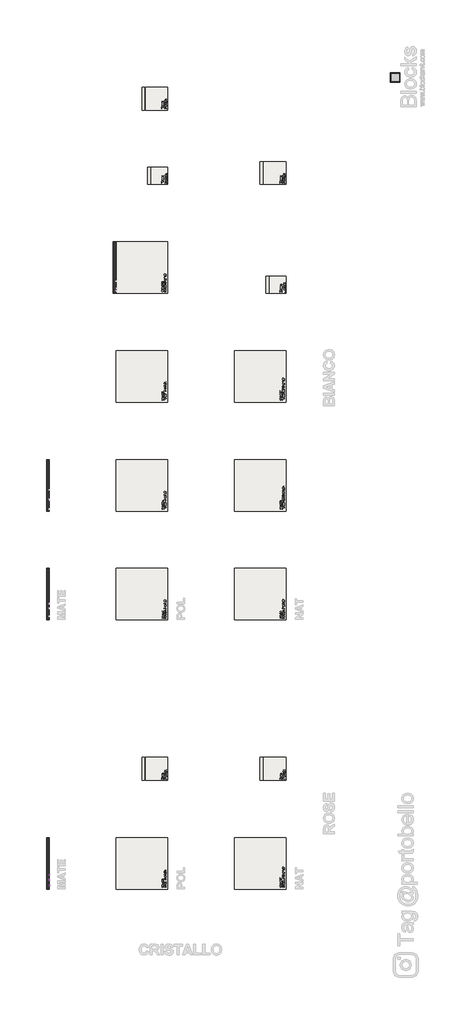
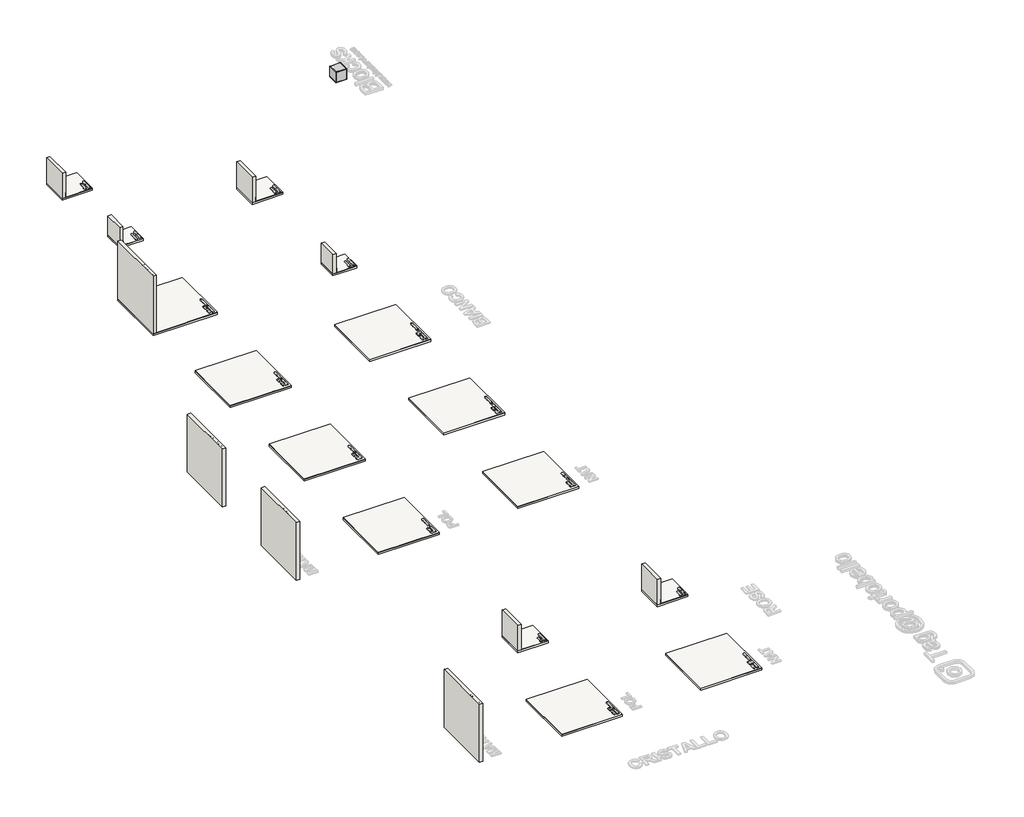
# One storey, part 1 of 14: 30 slabs, 10 walls, 3 proxies, 1 furniture element.
"""IFC4 building model written with IfcOpenShell, lengths in millimetres."""

from ifc_helpers import new_model, si_unit, frame, origin, origin_with_axes, place, context, project, spatial, polyline, outline, extrude, faceted_brep, transform, mapped, element, save
from components import branco_22256ad2

model = new_model("IFC4")

# Units and contexts
model_context = context("Model", 3, world=origin())
ifc_project = project(units=[si_unit("LENGTHUNIT", "METRE", prefix="MILLI")], contexts=[model_context])

# Site, building, storey
site = spatial("IfcSite", under=ifc_project)
building = spatial("IfcBuilding", under=site)
storey = spatial("IfcBuildingStorey", under=building, Name="PORTOBELLO - SHOWROOM", Elevation=0.0)

# Proxies
placement = place(None, origin())
element("IfcBuildingElementProxy", 1, Name="10mm Arial", ObjectType="10mm Arial", at=placement, inside=storey, context=model_context, shape_type="SweptSolid", body=[
    extrude(outline(polyline([(-8574.985348, 2518.4745677), (-8574.985348, 2618.9308778), (-8531.6978999, 2618.9308778), (-8511.5992803, 2616.2208138), (-8500.6118714, 2606.6313564), (-8496.5038557, 2591.43783), (-8498.20531, 2581.5418044), (-8503.3096727, 2573.3380359), (-8511.970228, 2567.3231653), (-8524.34026, 2563.9938332), (-8517.2033493, 2558.6227561), (-8507.0252808, 2545.6978353), (-8490.2743873, 2518.4745677), (-8504.8670398, 2518.4745677), (-8517.9391133, 2539.2966886), (-8527.3814179, 2553.0800007), (-8534.0155565, 2559.591512), (-8539.9875076, 2561.982745), (-8547.2715711, 2562.4242034), (-8562.4283093, 2562.4242034), (-8562.4283093, 2518.4745677), (-8574.985348, 2518.4745677)]), holes=[polyline([(-8562.4283093, 2574.9812421), (-8534.3221248, 2574.9812421), (-8519.9869898, 2576.7593384), (-8511.8445349, 2582.4492466), (-8509.0608945, 2590.9718462), (-8514.370658, 2602.0328315), (-8531.1583397, 2606.373839), (-8562.4283093, 2606.373839), (-8562.4283093, 2574.9812421)])]), frame((-16677.6869751, 0.0, 0.0), z_axis=(1.0, 0.0, 0.0), x_axis=(0.0, 1.0, 0.0)), (0.0, 0.0, 1.0), 20.0),
    extrude(outline(polyline([(-8479.2379274, 2555.360869), (-8476.521732, 2573.1479635), (-8468.3731458, 2585.64982), (-8458.3054419, 2591.7750552), (-8446.2511752, 2593.8168003), (-8433.05954, 2591.3305311), (-8422.5227865, 2583.8717237), (-8415.6158021, 2572.0289891), (-8413.3134739, 2556.3909386), (-8417.3847013, 2534.0482388), (-8429.2427643, 2521.4053609), (-8446.2511752, 2516.9049378), (-8459.6022259, 2519.3820099), (-8470.1267167, 2526.8132262), (-8476.9601247, 2538.9042811), (-8479.2379274, 2555.360869)]), holes=[polyline([(-8466.6808887, 2555.3853945), (-8465.2277548, 2544.0209065), (-8460.8683531, 2535.924437), (-8454.3077909, 2531.0775917), (-8446.2511752, 2529.4619766), (-8438.2313477, 2531.0867887), (-8431.6830482, 2535.9612252), (-8427.3236466, 2544.1649937), (-8425.8705127, 2555.777802), (-8427.3328436, 2566.8111961), (-8431.7198364, 2574.7973011), (-8438.277333, 2579.6441464), (-8446.2511752, 2581.2597615), (-8454.3077909, 2579.6502778), (-8460.8683531, 2574.8218266), (-8465.2277548, 2566.7437511), (-8466.6808887, 2555.3853945)])]), frame((-16677.6869751, 0.0, 0.0), z_axis=(1.0, 0.0, 0.0), x_axis=(0.0, 1.0, 0.0)), (0.0, 0.0, 1.0), 20.0),
    extrude(outline(polyline([(-8403.8956948, 2540.4493855), (-8391.3386561, 2542.0190154), (-8385.5261205, 2532.6993381), (-8372.2087923, 2529.4619766), (-8359.4064989, 2532.429558), (-8355.2371696, 2539.3947905), (-8359.4310243, 2545.0356477), (-8372.3559451, 2548.6163658), (-8391.2650797, 2554.7599951), (-8399.5178991, 2561.933694), (-8402.326065, 2572.0627116), (-8400.0697221, 2581.419177), (-8393.91383, 2588.5683505), (-8385.9307907, 2592.2839586), (-8375.1273228, 2593.8168003), (-8359.8479573, 2591.3519909), (-8350.1358726, 2584.6810641), (-8345.8193905, 2573.4116123), (-8358.3764293, 2571.8419824), (-8363.0975816, 2578.7704267), (-8374.1463041, 2581.2597615), (-8386.1637827, 2578.8807913), (-8389.7690262, 2573.3380359), (-8388.2729728, 2569.6837414), (-8383.5886087, 2566.9123637), (-8372.772878, 2564.2390879), (-8354.3419901, 2558.3284505), (-8345.7826023, 2551.6329982), (-8342.6801308, 2540.7191656), (-8346.3221626, 2528.7016871), (-8356.8313249, 2519.9828838), (-8372.3804706, 2516.9049378), (-8385.0417426, 2518.3887285), (-8394.281712, 2522.8401007), (-8400.4498668, 2530.2100033), (-8403.8956948, 2540.4493855)])), frame((-16677.6869751, 0.0, 0.0), z_axis=(1.0, 0.0, 0.0), x_axis=(0.0, 1.0, 0.0)), (0.0, 0.0, 1.0), 20.0),
    extrude(outline(polyline([(-8276.9028301, 2540.4493855), (-8264.591046, 2538.8797557), (-8269.0270897, 2529.602998), (-8276.1057524, 2522.6684224), (-8285.6676186, 2518.345809), (-8297.5532728, 2516.9049378), (-8312.2869467, 2519.391207), (-8323.6238435, 2526.8500144), (-8330.8527247, 2538.7969822), (-8333.2623518, 2554.7477324), (-8330.8281992, 2571.2349771), (-8323.5257416, 2583.5651553), (-8312.342129, 2591.253889), (-8298.2645113, 2593.8168003), (-8284.6252863, 2591.2600204), (-8273.7267822, 2583.5896808), (-8266.5806744, 2571.2840281), (-8264.1986385, 2554.8213088), (-8264.2722149, 2551.4367944), (-8320.705313, 2551.4367944), (-8318.5317435, 2542.0374095), (-8313.4825631, 2535.1273593), (-8306.195434, 2530.8783223), (-8297.3080181, 2529.4619766), (-8284.996234, 2532.0862015), (-8276.9028301, 2540.4493855)]), holes=[polyline([(-8320.705313, 2563.9938332), (-8276.7556773, 2563.9938332), (-8281.7833979, 2575.3736496), (-8289.1042496, 2579.7882335), (-8298.3135622, 2581.2597615), (-8313.7768687, 2576.5631347), (-8318.6421081, 2571.0724959), (-8320.705313, 2563.9938332)])]), frame((-16677.6869751, 0.0, 0.0), z_axis=(1.0, 0.0, 0.0), x_axis=(0.0, 1.0, 0.0)), (0.0, 0.0, 1.0), 20.0),
    extrude(outline(polyline([(-8210.8312238, 2518.4745677), (-8210.8312238, 2618.9308778), (-8189.2978643, 2618.9308778), (-8168.6964726, 2548.1258565), (-8164.5271433, 2533.3370003), (-8160.038983, 2549.3521298), (-8139.8299987, 2618.9308778), (-8118.2230628, 2618.9308778), (-8118.2230628, 2518.4745677), (-8130.7801016, 2518.4745677), (-8130.7801016, 2606.373839), (-8156.0168065, 2518.4745677), (-8173.0129547, 2518.4745677), (-8198.274185, 2606.373839), (-8198.274185, 2518.4745677), (-8210.8312238, 2518.4745677)])), frame((-16677.6869751, 0.0, 0.0), z_axis=(1.0, 0.0, 0.0), x_axis=(0.0, 1.0, 0.0)), (0.0, 0.0, 1.0), 20.0),
    extrude(outline(polyline([(-16657.6869751, -8085.2608361), (-16657.6869751, -8097.8178748), (-16677.6869751, -8097.8178748), (-16677.6869751, -8085.2608361), (-16657.6869751, -8085.2608361)])), frame((0.0, 0.0, 2606.373839), z_axis=(0.0, 0.0, 1.0), x_axis=(1.0, 0.0, 0.0)), (0.0, 0.0, 1.0), 12.5570388),
    extrude(outline(polyline([(-16657.6869751, -8085.2608361), (-16657.6869751, -8097.8178748), (-16677.6869751, -8097.8178748), (-16677.6869751, -8085.2608361), (-16657.6869751, -8085.2608361)])), frame((0.0, 0.0, 2518.4745677), z_axis=(0.0, 0.0, 1.0), x_axis=(1.0, 0.0, 0.0)), (0.0, 0.0, 1.0), 73.7726028),
    extrude(outline(polyline([(-8074.2734271, 2518.4745677), (-8047.442567, 2555.5815982), (-8072.7037973, 2592.2471704), (-8057.645161, 2592.2471704), (-8045.4560042, 2574.5643092), (-8039.7415705, 2566.2501761), (-8034.7874263, 2573.0682557), (-8020.9060124, 2592.2471704), (-8005.7983251, 2592.2471704), (-8032.3348797, 2555.5570728), (-8006.7793438, 2518.4745677), (-8021.8625056, 2518.4745677), (-8037.2644984, 2540.792742), (-8040.0604016, 2544.8884949), (-8059.1657399, 2518.4745677), (-8074.2734271, 2518.4745677)])), frame((-16677.6869751, 0.0, 0.0), z_axis=(1.0, 0.0, 0.0), x_axis=(0.0, 1.0, 0.0)), (0.0, 0.0, 1.0), 20.0),
])
element("IfcBuildingElementProxy", 2, Name="10mm Arial", ObjectType="10mm Arial", at=placement, inside=storey, context=model_context, shape_type="SweptSolid", body=[
    extrude(outline(polyline([(-8532.6053422, 2393.4745677), (-8545.162381, 2393.4745677), (-8545.162381, 2471.7598562), (-8557.0572321, 2463.2863076), (-8570.2764585, 2456.9464746), (-8570.2764585, 2468.8168003), (-8551.870096, 2480.5644987), (-8540.6987461, 2493.9308778), (-8532.6053422, 2493.9308778), (-8532.6053422, 2393.4745677)])), frame((-16677.6869751, 0.0, 0.0), z_axis=(1.0, 0.0, 0.0), x_axis=(0.0, 1.0, 0.0)), (0.0, 0.0, 1.0), 20.0),
    extrude(outline(polyline([(-8461.9719991, 2393.4745677), (-8461.9719991, 2417.0190154), (-8507.4912647, 2417.0190154), (-8507.4912647, 2429.5760541), (-8458.8327394, 2492.361248), (-8449.4149604, 2492.361248), (-8449.4149604, 2429.5760541), (-8436.8579216, 2429.5760541), (-8436.8579216, 2417.0190154), (-8449.4149604, 2417.0190154), (-8449.4149604, 2393.4745677), (-8461.9719991, 2393.4745677)]), holes=[polyline([(-8461.9719991, 2429.5760541), (-8461.9719991, 2468.3753419), (-8492.0402209, 2429.5760541), (-8461.9719991, 2429.5760541)])]), frame((-16677.6869751, 0.0, 0.0), z_axis=(1.0, 0.0, 0.0), x_axis=(0.0, 1.0, 0.0)), (0.0, 0.0, 1.0), 20.0),
    extrude(outline(polyline([(-8419.5919933, 2393.4745677), (-8419.5919933, 2406.0316064), (-8407.0349545, 2406.0316064), (-8407.0349545, 2393.4745677), (-8409.2912974, 2380.635486), (-8416.4527336, 2373.0693797), (-8419.5919933, 2377.7782692), (-8414.9812056, 2383.1983973), (-8413.3379994, 2393.4745677), (-8419.5919933, 2393.4745677)])), frame((-16677.6869751, 0.0, 0.0), z_axis=(1.0, 0.0, 0.0), x_axis=(0.0, 1.0, 0.0)), (0.0, 0.0, 1.0), 20.0),
    extrude(outline(polyline([(-8386.6297665, 2420.158275), (-8374.0727277, 2421.7279049), (-8367.7451574, 2408.7907214), (-8354.6240329, 2404.4619766), (-8345.6231868, 2405.9672271), (-8338.8786835, 2410.4829786), (-8334.6664347, 2417.4880649), (-8333.2623518, 2426.4613199), (-8338.5230643, 2441.3728034), (-8345.1296118, 2445.4746877), (-8354.4278292, 2446.8419824), (-8365.4520263, 2444.6592159), (-8372.5030979, 2438.9938332), (-8385.0601367, 2440.563463), (-8374.0727277, 2492.361248), (-8325.4142025, 2492.361248), (-8325.4142025, 2479.8042092), (-8363.9191847, 2479.8042092), (-8369.3147873, 2452.1394832), (-8360.344598, 2457.5841367), (-8350.945213, 2459.3990212), (-8339.2097773, 2457.1488097), (-8329.4609045, 2450.3981751), (-8322.8942109, 2440.1097419), (-8320.705313, 2427.2461348), (-8322.6734817, 2414.6890961), (-8328.5779877, 2403.9469418), (-8339.8842277, 2394.9154388), (-8354.6730839, 2391.9049378), (-8367.0063278, 2393.839384), (-8376.8318427, 2399.6427224), (-8383.5671489, 2408.6405029), (-8386.6297665, 2420.158275)])), frame((-16677.6869751, 0.0, 0.0), z_axis=(1.0, 0.0, 0.0), x_axis=(0.0, 1.0, 0.0)), (0.0, 0.0, 1.0), 20.0),
    extrude(outline(polyline([(-8314.4267936, 2393.4745677), (-8287.5959334, 2430.5815982), (-8312.8571638, 2467.2471704), (-8297.7985274, 2467.2471704), (-8285.6093706, 2449.5643092), (-8279.894937, 2441.2501761), (-8274.9407928, 2448.0682557), (-8261.0593788, 2467.2471704), (-8245.9516916, 2467.2471704), (-8272.4882461, 2430.5570728), (-8246.9327102, 2393.4745677), (-8262.015872, 2393.4745677), (-8277.4178649, 2415.792742), (-8280.213768, 2419.8884949), (-8299.3191063, 2393.4745677), (-8314.4267936, 2393.4745677)])), frame((-16677.6869751, 0.0, 0.0), z_axis=(1.0, 0.0, 0.0), x_axis=(0.0, 1.0, 0.0)), (0.0, 0.0, 1.0), 20.0),
    extrude(outline(polyline([(-8191.9956656, 2393.4745677), (-8204.5527044, 2393.4745677), (-8204.5527044, 2471.7598562), (-8216.4475555, 2463.2863076), (-8229.6667819, 2456.9464746), (-8229.6667819, 2468.8168003), (-8211.2604194, 2480.5644987), (-8200.0890695, 2493.9308778), (-8191.9956656, 2493.9308778), (-8191.9956656, 2393.4745677)])), frame((-16677.6869751, 0.0, 0.0), z_axis=(1.0, 0.0, 0.0), x_axis=(0.0, 1.0, 0.0)), (0.0, 0.0, 1.0), 20.0),
    extrude(outline(polyline([(-8121.3623225, 2393.4745677), (-8121.3623225, 2417.0190154), (-8166.8815881, 2417.0190154), (-8166.8815881, 2429.5760541), (-8118.2230628, 2492.361248), (-8108.8052838, 2492.361248), (-8108.8052838, 2429.5760541), (-8096.248245, 2429.5760541), (-8096.248245, 2417.0190154), (-8108.8052838, 2417.0190154), (-8108.8052838, 2393.4745677), (-8121.3623225, 2393.4745677)]), holes=[polyline([(-8121.3623225, 2429.5760541), (-8121.3623225, 2468.3753419), (-8151.4305443, 2429.5760541), (-8121.3623225, 2429.5760541)])]), frame((-16677.6869751, 0.0, 0.0), z_axis=(1.0, 0.0, 0.0), x_axis=(0.0, 1.0, 0.0)), (0.0, 0.0, 1.0), 20.0),
    extrude(outline(polyline([(-8078.9823167, 2393.4745677), (-8078.9823167, 2406.0316064), (-8066.4252779, 2406.0316064), (-8066.4252779, 2393.4745677), (-8068.6816208, 2380.635486), (-8075.843057, 2373.0693797), (-8078.9823167, 2377.7782692), (-8074.371529, 2383.1983973), (-8072.7283228, 2393.4745677), (-8078.9823167, 2393.4745677)])), frame((-16677.6869751, 0.0, 0.0), z_axis=(1.0, 0.0, 0.0), x_axis=(0.0, 1.0, 0.0)), (0.0, 0.0, 1.0), 20.0),
    extrude(outline(polyline([(-8046.0200899, 2420.158275), (-8033.4630511, 2421.7279049), (-8027.1354808, 2408.7907214), (-8014.0143563, 2404.4619766), (-8005.0135102, 2405.9672271), (-7998.2690069, 2410.4829786), (-7994.0567581, 2417.4880649), (-7992.6526751, 2426.4613199), (-7997.9133877, 2441.3728034), (-8004.5199352, 2445.4746877), (-8013.8181526, 2446.8419824), (-8024.8423497, 2444.6592159), (-8031.8934213, 2438.9938332), (-8044.4504601, 2440.563463), (-8033.4630511, 2492.361248), (-7984.8045259, 2492.361248), (-7984.8045259, 2479.8042092), (-8023.3095081, 2479.8042092), (-8028.7051107, 2452.1394832), (-8019.7349214, 2457.5841367), (-8010.3355364, 2459.3990212), (-7998.6001007, 2457.1488097), (-7988.8512279, 2450.3981751), (-7982.2845343, 2440.1097419), (-7980.0956364, 2427.2461348), (-7982.0638051, 2414.6890961), (-7987.9683111, 2403.9469418), (-7999.2745511, 2394.9154388), (-8014.0634073, 2391.9049378), (-8026.3966512, 2393.839384), (-8036.2221661, 2399.6427224), (-8042.9574723, 2408.6405029), (-8046.0200899, 2420.158275)])), frame((-16677.6869751, 0.0, 0.0), z_axis=(1.0, 0.0, 0.0), x_axis=(0.0, 1.0, 0.0)), (0.0, 0.0, 1.0), 20.0),
])
element("IfcBuildingElementProxy", 3, Name="10mm Arial Narrow", ObjectType="10mm Arial Narrow", at=placement, inside=storey, context=model_context, shape_type="SweptSolid", body=[
    extrude(outline(polyline([(-7933.0797532, 2518.4745677), (-7933.0797532, 2615.7916181), (-7902.8398532, 2615.7916181), (-7887.0945038, 2613.9767336), (-7876.008993, 2604.8164719), (-7871.8641892, 2588.3721467), (-7873.5901689, 2576.7041561), (-7878.768108, 2567.402873), (-7888.1828214, 2561.314426), (-7902.619124, 2559.2849437), (-7923.6619741, 2559.2849437), (-7923.6619741, 2518.4745677), (-7933.0797532, 2518.4745677)]), holes=[polyline([(-7923.6619741, 2570.2723526), (-7901.4664271, 2570.2723526), (-7886.1380106, 2574.6501483), (-7881.2819683, 2587.857112), (-7883.6732012, 2597.6795612), (-7889.4489486, 2603.2836303), (-7901.6871563, 2604.8042092), (-7923.6619741, 2604.8042092), (-7923.6619741, 2570.2723526)])]), frame((-16677.6869751, 0.0, 0.0), z_axis=(1.0, 0.0, 0.0), x_axis=(0.0, 1.0, 0.0)), (0.0, 0.0, 1.0), 20.0),
    extrude(outline(polyline([(-7864.01604, 2553.7912392), (-7862.1275791, 2569.8216971), (-7856.4621963, 2581.3701261), (-7847.9028086, 2588.350687), (-7837.3323326, 2590.6775406), (-7826.8844839, 2588.350687), (-7818.3005707, 2581.3701261), (-7812.5616116, 2570.0056381), (-7810.6486252, 2554.5270032), (-7812.5278891, 2537.9447223), (-7818.1656806, 2526.2123523), (-7826.7158713, 2519.2317914), (-7837.3323326, 2516.9049378), (-7847.8261665, 2519.2379228), (-7856.4008827, 2526.2368778), (-7862.1122506, 2537.7914381), (-7864.01604, 2553.7912392)]), holes=[polyline([(-7854.5982609, 2553.8157647), (-7853.3382651, 2541.6879216), (-7849.5582776, 2533.1162711), (-7843.9143546, 2528.0211054), (-7837.0625525, 2526.3227169), (-7830.5694352, 2528.0364339), (-7825.0695994, 2533.1775847), (-7821.3172031, 2541.7645636), (-7820.0664043, 2553.8157647), (-7821.3264001, 2565.9068196), (-7825.1063876, 2574.4662073), (-7830.7503106, 2579.561373), (-7837.6021127, 2581.2597615), (-7844.1412152, 2579.5521759), (-7849.631854, 2574.4294191), (-7853.3566592, 2565.8608343), (-7854.5982609, 2553.8157647)])]), frame((-16677.6869751, 0.0, 0.0), z_axis=(1.0, 0.0, 0.0), x_axis=(0.0, 1.0, 0.0)), (0.0, 0.0, 1.0), 20.0),
    extrude(outline(polyline([(-7741.584912, 2526.3227169), (-7740.0152821, 2516.9049378), (-7747.1276674, 2516.9049378), (-7755.1229694, 2518.9528143), (-7759.2922987, 2524.5568833), (-7760.4204701, 2538.7080774), (-7760.4204701, 2579.6901317), (-7768.2686194, 2579.6901317), (-7768.2686194, 2582.8293914), (-7769.8382492, 2578.1205018), (-7777.1468382, 2579.6901317), (-7783.0206874, 2577.4460515), (-7786.760821, 2571.1797948), (-7788.6738074, 2556.2928368), (-7788.6738074, 2518.4745677), (-7798.0915864, 2518.4745677), (-7798.0915864, 2589.1079107), (-7788.6738074, 2589.1079107), (-7788.6738074, 2579.7391826), (-7782.6405426, 2588.5192995), (-7776.4601251, 2590.6775406), (-7768.2686194, 2589.1079107), (-7760.4204701, 2589.1079107), (-7760.4204701, 2604.8042092), (-7751.002691, 2612.6523584), (-7751.002691, 2589.1079107), (-7741.584912, 2589.1079107), (-7741.584912, 2579.6901317), (-7751.002691, 2579.6901317), (-7751.002691, 2536.5498364), (-7750.1688252, 2528.8243145), (-7745.7051903, 2526.3227169), (-7741.584912, 2526.3227169)])), frame((-16677.6869751, 0.0, 0.0), z_axis=(1.0, 0.0, 0.0), x_axis=(0.0, 1.0, 0.0)), (0.0, 0.0, 1.0), 20.0),
    extrude(outline(polyline([(-7735.3063926, 2553.7912392), (-7733.4179317, 2569.8216971), (-7727.752549, 2581.3701261), (-7719.1931612, 2588.350687), (-7708.6226852, 2590.6775406), (-7698.1748365, 2588.350687), (-7689.5909233, 2581.3701261), (-7683.8519642, 2570.0056381), (-7681.9389778, 2554.5270032), (-7683.8182417, 2537.9447223), (-7689.4560333, 2526.2123523), (-7698.006224, 2519.2317914), (-7708.6226852, 2516.9049378), (-7719.1165191, 2519.2379228), (-7727.6912353, 2526.2368778), (-7733.4026033, 2537.7914381), (-7735.3063926, 2553.7912392)]), holes=[polyline([(-7725.8886135, 2553.8157647), (-7724.6286177, 2541.6879216), (-7720.8486302, 2533.1162711), (-7715.2047072, 2528.0211054), (-7708.3529051, 2526.3227169), (-7701.8597879, 2528.0364339), (-7696.359952, 2533.1775847), (-7692.6075557, 2541.7645636), (-7691.3567569, 2553.8157647), (-7692.6167527, 2565.9068196), (-7696.3967402, 2574.4662073), (-7702.0406632, 2579.561373), (-7708.8924653, 2581.2597615), (-7715.4315678, 2579.5521759), (-7720.9222066, 2574.4294191), (-7724.6470118, 2565.8608343), (-7725.8886135, 2553.8157647)])]), frame((-16677.6869751, 0.0, 0.0), z_axis=(1.0, 0.0, 0.0), x_axis=(0.0, 1.0, 0.0)), (0.0, 0.0, 1.0), 20.0),
    extrude(outline(polyline([(-7659.96416, 2518.4745677), (-7669.3819391, 2518.4745677), (-7669.3819391, 2615.7916181), (-7659.96416, 2615.7916181), (-7659.96416, 2581.5785926), (-7652.8149865, 2588.4211977), (-7643.924505, 2590.6775406), (-7631.4778308, 2586.6185759), (-7622.5137729, 2574.3190545), (-7619.153784, 2554.3307995), (-7621.0207851, 2538.4321659), (-7626.6217885, 2526.641548), (-7634.7121267, 2519.3390904), (-7644.0471323, 2516.9049378), (-7653.0725039, 2519.4310609), (-7659.96416, 2526.9358536), (-7659.96416, 2518.4745677)]), holes=[polyline([(-7659.96416, 2554.3307995), (-7657.9530717, 2537.6657451), (-7652.2631635, 2529.2289847), (-7644.0961833, 2526.3227169), (-7638.3541584, 2528.0517623), (-7633.2927153, 2533.2388984), (-7628.5715631, 2553.938392), (-7633.1210371, 2574.6501483), (-7638.1886115, 2579.6073582), (-7644.292387, 2581.2597615), (-7650.0681343, 2579.5307161), (-7655.181694, 2574.34358), (-7659.96416, 2554.3307995)])]), frame((-16677.6869751, 0.0, 0.0), z_axis=(1.0, 0.0, 0.0), x_axis=(0.0, 1.0, 0.0)), (0.0, 0.0, 1.0), 20.0),
    extrude(outline(polyline([(-7568.9256289, 2540.4493855), (-7559.5078498, 2538.8797557), (-7568.7048997, 2522.4476932), (-7585.1860131, 2516.9049378), (-7596.3880198, 2519.2379228), (-7605.2233191, 2526.2368778), (-7610.9622782, 2537.6442853), (-7612.8752646, 2553.202628), (-7610.9530812, 2569.3066623), (-7605.1865309, 2581.0758205), (-7596.4769247, 2588.2771106), (-7585.7255733, 2590.6775406), (-7575.4034177, 2588.359884), (-7566.9513289, 2581.4069143), (-7561.3135373, 2570.0638861), (-7559.4342734, 2554.5760541), (-7559.5078498, 2551.4367944), (-7603.4574855, 2551.4367944), (-7597.6572127, 2532.6502872), (-7591.9274507, 2527.9046095), (-7585.0633858, 2526.3227169), (-7575.2286738, 2529.854384), (-7568.9256289, 2540.4493855)]), holes=[polyline([(-7602.8198234, 2560.8545735), (-7568.9256289, 2560.8545735), (-7573.0459072, 2574.6378856), (-7578.6745018, 2579.6042925), (-7585.6519969, 2581.2597615), (-7597.4487463, 2575.7415316), (-7602.8198234, 2560.8545735)])]), frame((-16677.6869751, 0.0, 0.0), z_axis=(1.0, 0.0, 0.0), x_axis=(0.0, 1.0, 0.0)), (0.0, 0.0, 1.0), 20.0),
    extrude(outline(polyline([(-16657.6869751, -7537.533032), (-16657.6869751, -7546.9508111), (-16677.6869751, -7546.9508111), (-16677.6869751, -7537.533032), (-16657.6869751, -7537.533032)])), frame((0.0, 0.0, 2518.4745677), z_axis=(0.0, 0.0, 1.0), x_axis=(1.0, 0.0, 0.0)), (0.0, 0.0, 1.0), 97.3170505),
    extrude(outline(polyline([(-16657.6869751, -7512.4189544), (-16657.6869751, -7521.8367335), (-16677.6869751, -7521.8367335), (-16677.6869751, -7512.4189544), (-16657.6869751, -7512.4189544)])), frame((0.0, 0.0, 2518.4745677), z_axis=(0.0, 0.0, 1.0), x_axis=(1.0, 0.0, 0.0)), (0.0, 0.0, 1.0), 97.3170505),
    extrude(outline(polyline([(-7501.4315455, 2553.7912392), (-7499.5430846, 2569.8216971), (-7493.8777019, 2581.3701261), (-7485.3183141, 2588.350687), (-7474.7478381, 2590.6775406), (-7464.2999895, 2588.350687), (-7455.7160763, 2581.3701261), (-7449.9771171, 2570.0056381), (-7448.0641308, 2554.5270032), (-7449.9433946, 2537.9447223), (-7455.5811862, 2526.2123523), (-7464.1313769, 2519.2317914), (-7474.7478381, 2516.9049378), (-7485.241672, 2519.2379228), (-7493.8163882, 2526.2368778), (-7499.5277562, 2537.7914381), (-7501.4315455, 2553.7912392)]), holes=[polyline([(-7492.0137664, 2553.8157647), (-7490.7537706, 2541.6879216), (-7486.9737831, 2533.1162711), (-7481.3298602, 2528.0211054), (-7474.478058, 2526.3227169), (-7467.9849408, 2528.0364339), (-7462.485105, 2533.1775847), (-7458.7327086, 2541.7645636), (-7457.4819098, 2553.8157647), (-7458.7419057, 2565.9068196), (-7462.5218932, 2574.4662073), (-7468.1658161, 2579.561373), (-7475.0176183, 2581.2597615), (-7481.5567207, 2579.5521759), (-7487.0473595, 2574.4294191), (-7490.7721647, 2565.8608343), (-7492.0137664, 2553.8157647)])]), frame((-16677.6869751, 0.0, 0.0), z_axis=(1.0, 0.0, 0.0), x_axis=(0.0, 1.0, 0.0)), (0.0, 0.0, 1.0), 20.0),
])

# Furniture
branco_shape = branco_22256ad2(model_context)
element("IfcFurniture", 4, ObjectType="Blks_Mob_Blocks Revit_Cubo : Branco", at=placement, inside=storey, context=model_context, shape_type="MappedRepresentation", body=[
    mapped(branco_shape, transform((1435.2148271, 33837.8429139, 0.0), x_axis=(1.0, 0.0, 0.0), y_axis=(0.0, 1.0, 0.0), z_axis=(0.0, 0.0, 1.0))),
])

# Slabs
element("IfcSlab", 5, ObjectType="PORTOBELLO - LAJE", at=placement, inside=storey, context=model_context, shape_type="SweptSolid", body=[
    extrude(outline(polyline([(-10477.661959, -5964.6157886), (-10477.661959, -8664.6157886), (-13177.661959, -8664.6157886), (-13177.661959, -5964.6157886), (-10477.661959, -5964.6157886)])), frame((0.0, 0.0, -80.0), z_axis=(0.0, 0.0, 1.0), x_axis=(1.0, 0.0, 0.0)), (0.0, 0.0, 1.0), 80.0),
])
element("IfcSlab", 6, ObjectType="PORTOBELLO - CRISTALLO ROSE 120X120 POL RET", at=placement, inside=storey, context=model_context, shape_type="SweptSolid", body=[
    extrude(outline(polyline([(-10477.661959, -8664.6157886), (-13177.661959, -8664.6157886), (-13177.661959, -5964.6157886), (-10477.661959, -5964.6157886), (-10477.661959, -8664.6157886)])), origin_with_axes(), (0.0, 0.0, 1.0), 17.0),
])
element("IfcSlab", 7, ObjectType="PORTOBELLO - LAJE", at=placement, inside=storey, context=model_context, shape_type="SweptSolid", body=[
    extrude(outline(polyline([(-4277.6369429, -5964.6157886), (-4277.6369429, -8664.6157886), (-6977.6369429, -8664.6157886), (-6977.6369429, -5964.6157886), (-4277.6369429, -5964.6157886)])), frame((0.0, 0.0, -80.0), z_axis=(0.0, 0.0, 1.0), x_axis=(1.0, 0.0, 0.0)), (0.0, 0.0, 1.0), 80.0),
])
element("IfcSlab", 8, ObjectType="PORTOBELLO - CRISTALLO ROSE ST 120X120 NAT RET", at=placement, inside=storey, context=model_context, shape_type="SweptSolid", body=[
    extrude(outline(polyline([(-4277.6369429, -8664.6157886), (-6977.6369429, -8664.6157886), (-6977.6369429, -5964.6157886), (-4277.6369429, -5964.6157886), (-4277.6369429, -8664.6157886)])), origin_with_axes(), (0.0, 0.0, 1.0), 17.0),
])
element("IfcSlab", 9, ObjectType="PORTOBELLO - LAJE", at=placement, inside=storey, context=model_context, shape_type="SweptSolid", body=[
    extrude(outline(polyline([(-10477.661959, 8135.3842114), (-10477.661959, 5435.3842114), (-13177.661959, 5435.3842114), (-13177.661959, 8135.3842114), (-10477.661959, 8135.3842114)])), frame((0.0, 0.0, -80.0), z_axis=(0.0, 0.0, 1.0), x_axis=(1.0, 0.0, 0.0)), (0.0, 0.0, 1.0), 80.0),
])
element("IfcSlab", 10, ObjectType="PORTOBELLO - CRISTALLO BIANCO 90X90 POL RET", at=placement, inside=storey, context=model_context, shape_type="SweptSolid", body=[
    extrude(outline(polyline([(-10477.661959, 5435.3842114), (-13177.661959, 5435.3842114), (-13177.661959, 8135.3842114), (-10477.661959, 8135.3842114), (-10477.661959, 5435.3842114)])), origin_with_axes(), (0.0, 0.0, 1.0), 18.0),
])
element("IfcSlab", 11, ObjectType="PORTOBELLO - LAJE", at=placement, inside=storey, context=model_context, shape_type="SweptSolid", body=[
    extrude(outline(polyline([(-4277.6369429, 8135.3842114), (-4277.6369429, 5435.3842114), (-6977.6369429, 5435.3842114), (-6977.6369429, 8135.3842114), (-4277.6369429, 8135.3842114)])), frame((0.0, 0.0, -80.0), z_axis=(0.0, 0.0, 1.0), x_axis=(1.0, 0.0, 0.0)), (0.0, 0.0, 1.0), 80.0),
])
element("IfcSlab", 12, ObjectType="PORTOBELLO - CRISTALLO BIANCO 90X90 NAT RET", at=placement, inside=storey, context=model_context, shape_type="SweptSolid", body=[
    extrude(outline(polyline([(-4277.6369429, 5435.3842114), (-6977.6369429, 5435.3842114), (-6977.6369429, 8135.3842114), (-4277.6369429, 8135.3842114), (-4277.6369429, 5435.3842114)])), origin_with_axes(), (0.0, 0.0, 1.0), 18.0),
])
element("IfcSlab", 13, ObjectType="PORTOBELLO - LAJE", at=placement, inside=storey, context=model_context, shape_type="SweptSolid", body=[
    extrude(outline(polyline([(-10477.661959, 13835.3842114), (-10477.661959, 11135.3842114), (-13177.661959, 11135.3842114), (-13177.661959, 13835.3842114), (-10477.661959, 13835.3842114)])), frame((0.0, 0.0, -80.0), z_axis=(0.0, 0.0, 1.0), x_axis=(1.0, 0.0, 0.0)), (0.0, 0.0, 1.0), 80.0),
])
element("IfcSlab", 14, ObjectType="PORTOBELLO - CRISTALLO BIANCO 60X120 POL RET", at=placement, inside=storey, context=model_context, shape_type="SweptSolid", body=[
    extrude(outline(polyline([(-10477.661959, 11135.3842114), (-13177.661959, 11135.3842114), (-13177.661959, 13835.3842114), (-10477.661959, 13835.3842114), (-10477.661959, 11135.3842114)])), origin_with_axes(), (0.0, 0.0, 1.0), 19.0),
])
element("IfcSlab", 15, ObjectType="PORTOBELLO - LAJE", at=placement, inside=storey, context=model_context, shape_type="SweptSolid", body=[
    extrude(outline(polyline([(-4277.6369429, 13835.3842114), (-4277.6369429, 11135.3842114), (-6977.6369429, 11135.3842114), (-6977.6369429, 13835.3842114), (-4277.6369429, 13835.3842114)])), frame((0.0, 0.0, -80.0), z_axis=(0.0, 0.0, 1.0), x_axis=(1.0, 0.0, 0.0)), (0.0, 0.0, 1.0), 80.0),
])
element("IfcSlab", 16, ObjectType="PORTOBELLO - CRISTALLO BIANCO ST 60X120 NAT RET", at=placement, inside=storey, context=model_context, shape_type="SweptSolid", body=[
    extrude(outline(polyline([(-4277.6369429, 11135.3842114), (-6977.6369429, 11135.3842114), (-6977.6369429, 13835.3842114), (-4277.6369429, 13835.3842114), (-4277.6369429, 11135.3842114)])), origin_with_axes(), (0.0, 0.0, 1.0), 19.0),
])
element("IfcSlab", 17, ObjectType="PORTOBELLO - LAJE", at=placement, inside=storey, context=model_context, shape_type="SweptSolid", body=[
    extrude(outline(polyline([(-10477.661959, 19535.3842114), (-10477.661959, 16835.3842114), (-13177.661959, 16835.3842114), (-13177.661959, 19535.3842114), (-10477.661959, 19535.3842114)])), frame((0.0, 0.0, -80.0), z_axis=(0.0, 0.0, 1.0), x_axis=(1.0, 0.0, 0.0)), (0.0, 0.0, 1.0), 80.0),
])
element("IfcSlab", 18, ObjectType="PORTOBELLO - CRISTALLO BIANCO 120X120 POL RET", at=placement, inside=storey, context=model_context, shape_type="SweptSolid", body=[
    extrude(outline(polyline([(-10477.661959, 16835.3842114), (-13177.661959, 16835.3842114), (-13177.661959, 19535.3842114), (-10477.661959, 19535.3842114), (-10477.661959, 16835.3842114)])), origin_with_axes(), (0.0, 0.0, 1.0), 17.0),
])
element("IfcSlab", 19, ObjectType="PORTOBELLO - LAJE", at=placement, inside=storey, context=model_context, shape_type="SweptSolid", body=[
    extrude(outline(polyline([(-4277.6369429, 19535.3842114), (-4277.6369429, 16835.3842114), (-6977.6369429, 16835.3842114), (-6977.6369429, 19535.3842114), (-4277.6369429, 19535.3842114)])), frame((0.0, 0.0, -80.0), z_axis=(0.0, 0.0, 1.0), x_axis=(1.0, 0.0, 0.0)), (0.0, 0.0, 1.0), 80.0),
])
element("IfcSlab", 20, ObjectType="PORTOBELLO - CRISTALLO BIANCO ST 120X120 NAT RET", at=placement, inside=storey, context=model_context, shape_type="SweptSolid", body=[
    extrude(outline(polyline([(-4277.6369429, 16835.3842114), (-6977.6369429, 16835.3842114), (-6977.6369429, 19535.3842114), (-4277.6369429, 19535.3842114), (-4277.6369429, 16835.3842114)])), origin_with_axes(), (0.0, 0.0, 1.0), 17.0),
])
element("IfcSlab", 21, ObjectType="PORTOBELLO - CRISTALLO BIANCO 160X160 POL RET", at=placement, inside=storey, context=model_context, shape_type="SweptSolid", body=[
    extrude(outline(polyline([(-10477.661959, 22535.3842114), (-13177.661959, 22535.3842114), (-13177.661959, 25235.3842114), (-10477.661959, 25235.3842114), (-10477.661959, 22535.3842114)])), frame((0.0, 0.0, -17.0), z_axis=(0.0, 0.0, 1.0), x_axis=(1.0, 0.0, 0.0)), (0.0, 0.0, 1.0), 17.0),
])
element("IfcSlab", 22, ObjectType="PORTOBELLO - LAJE", at=placement, inside=storey, context=model_context, shape_type="SweptSolid", body=[
    extrude(outline(polyline([(-10477.661959, 25235.3842114), (-10477.661959, 22535.3842114), (-13327.661959, 22535.3842114), (-13327.661959, 25235.3842114), (-10477.661959, 25235.3842114)])), frame((0.0, 0.0, -97.0), z_axis=(0.0, 0.0, 1.0), x_axis=(1.0, 0.0, 0.0)), (0.0, 0.0, 1.0), 80.0),
])
element("IfcSlab", 23, ObjectType="PORTOBELLO_LAJE", at=placement, inside=storey, context=model_context, shape_type="Brep", body=[
    faceted_brep([(-4277.6369429, 29435.3842114, -80.0), (-4277.6369429, 28235.3842114, -80.0), (-5627.6369429, 28235.3842114, -80.0), (-5627.6369429, 29435.3842114, -80.0), (-4277.6369429, 29435.3842114, 0.0), (-5477.6369429, 29435.3842114, 0.0), (-5627.6369429, 29435.3842114, 0.0), (-5627.6369429, 28235.3842114, 0.0), (-5477.6369429, 28235.3842114, 0.0), (-4277.6369429, 28235.3842114, 0.0)], [[[0, 1, 2, 3]], [[4, 5, 6, 7, 8, 9]], [[1, 0, 4, 9]], [[2, 1, 9, 8, 7]], [[3, 2, 7, 6]], [[0, 3, 6, 5, 4]]]),
])
element("IfcSlab", 24, ObjectType="PORTOBELLO - CRISTALLO BIANCO ST 120X120 NAT RET", at=placement, inside=storey, context=model_context, shape_type="SweptSolid", body=[
    extrude(outline(polyline([(-4277.6369429, 29435.3842114), (-4277.6369429, 28235.3842114), (-5477.6369429, 28235.3842114), (-5477.6369429, 29435.3842114), (-4277.6369429, 29435.3842114)])), origin_with_axes(), (0.0, 0.0, 1.0), 17.0),
])
element("IfcSlab", 25, ObjectType="PORTOBELLO_LAJE", at=placement, inside=storey, context=model_context, shape_type="Brep", body=[
    faceted_brep([(-4277.6369429, 23435.3842114, -80.0), (-4277.6369429, 22535.3842114, -80.0), (-5327.6369429, 22535.3842114, -80.0), (-5327.6369429, 23435.3842114, -80.0), (-4277.6369429, 23435.3842114, 0.0), (-5177.6369429, 23435.3842114, 0.0), (-5327.6369429, 23435.3842114, 0.0), (-5327.6369429, 22535.3842114, 0.0), (-5177.6369429, 22535.3842114, 0.0), (-4277.6369429, 22535.3842114, 0.0)], [[[0, 1, 2, 3]], [[4, 5, 6, 7, 8, 9]], [[1, 0, 4, 9]], [[2, 1, 9, 8, 7]], [[3, 2, 7, 6]], [[0, 3, 6, 5, 4]]]),
])
element("IfcSlab", 26, ObjectType="PORTOBELLO - CRISTALLO BIANCO 90X90 NAT RET", at=placement, inside=storey, context=model_context, shape_type="SweptSolid", body=[
    extrude(outline(polyline([(-4277.6369429, 23435.3842114), (-4277.6369429, 22535.3842114), (-5177.6369429, 22535.3842114), (-5177.6369429, 23435.3842114), (-4277.6369429, 23435.3842114)])), origin_with_axes(), (0.0, 0.0, 1.0), 18.0),
])
element("IfcSlab", 27, ObjectType="PORTOBELLO_LAJE", at=placement, inside=storey, context=model_context, shape_type="Brep", body=[
    faceted_brep([(-10477.661959, 33335.3842114, -80.0), (-10477.661959, 32135.3842114, -80.0), (-11827.661959, 32135.3842114, -80.0), (-11827.661959, 33335.3842114, -80.0), (-10477.661959, 33335.3842114, 0.0), (-11677.661959, 33335.3842114, 0.0), (-11827.661959, 33335.3842114, 0.0), (-11827.661959, 32135.3842114, 0.0), (-11677.661959, 32135.3842114, 0.0), (-10477.661959, 32135.3842114, 0.0)], [[[0, 1, 2, 3]], [[4, 5, 6, 7, 8, 9]], [[1, 0, 4, 9]], [[2, 1, 9, 8, 7]], [[3, 2, 7, 6]], [[0, 3, 6, 5, 4]]]),
])
element("IfcSlab", 28, ObjectType="PORTOBELLO - CRISTALLO BIANCO 120X120 POL RET", at=placement, inside=storey, context=model_context, shape_type="SweptSolid", body=[
    extrude(outline(polyline([(-10477.661959, 33335.3842114), (-10477.661959, 32135.3842114), (-11677.661959, 32135.3842114), (-11677.661959, 33335.3842114), (-10477.661959, 33335.3842114)])), origin_with_axes(), (0.0, 0.0, 1.0), 17.0),
])
element("IfcSlab", 29, ObjectType="PORTOBELLO_LAJE", at=placement, inside=storey, context=model_context, shape_type="Brep", body=[
    faceted_brep([(-10477.661959, 29135.3842114, -80.0), (-10477.661959, 28235.3842114, -80.0), (-11527.661959, 28235.3842114, -80.0), (-11527.661959, 29135.3842114, -80.0), (-10477.661959, 29135.3842114, 0.0), (-11377.661959, 29135.3842114, 0.0), (-11527.661959, 29135.3842114, 0.0), (-11527.661959, 28235.3842114, 0.0), (-11377.661959, 28235.3842114, 0.0), (-10477.661959, 28235.3842114, 0.0)], [[[0, 1, 2, 3]], [[4, 5, 6, 7, 8, 9]], [[1, 0, 4, 9]], [[2, 1, 9, 8, 7]], [[3, 2, 7, 6]], [[0, 3, 6, 5, 4]]]),
])
element("IfcSlab", 30, ObjectType="PORTOBELLO - CRISTALLO BIANCO 90X90 POL RET", at=placement, inside=storey, context=model_context, shape_type="SweptSolid", body=[
    extrude(outline(polyline([(-10477.661959, 29135.3842114), (-10477.661959, 28235.3842114), (-11377.661959, 28235.3842114), (-11377.661959, 29135.3842114), (-10477.661959, 29135.3842114)])), origin_with_axes(), (0.0, 0.0, 1.0), 18.0),
])
element("IfcSlab", 31, ObjectType="PORTOBELLO_LAJE", at=placement, inside=storey, context=model_context, shape_type="Brep", body=[
    faceted_brep([(-10477.661959, -1764.6157886, -80.0), (-10477.661959, -2964.6157886, -80.0), (-11827.661959, -2964.6157886, -80.0), (-11827.661959, -1764.6157886, -80.0), (-10477.661959, -1764.6157886, 0.0), (-11677.661959, -1764.6157886, 0.0), (-11827.661959, -1764.6157886, 0.0), (-11827.661959, -2964.6157886, 0.0), (-11677.661959, -2964.6157886, 0.0), (-10477.661959, -2964.6157886, 0.0)], [[[0, 1, 2, 3]], [[4, 5, 6, 7, 8, 9]], [[1, 0, 4, 9]], [[2, 1, 9, 8, 7]], [[3, 2, 7, 6]], [[0, 3, 6, 5, 4]]]),
])
element("IfcSlab", 32, ObjectType="PORTOBELLO - CRISTALLO ROSE 120X120 POL RET", at=placement, inside=storey, context=model_context, shape_type="SweptSolid", body=[
    extrude(outline(polyline([(-10477.661959, -1764.6157886), (-10477.661959, -2964.6157886), (-11677.661959, -2964.6157886), (-11677.661959, -1764.6157886), (-10477.661959, -1764.6157886)])), frame((0.0, 0.0, 1.0), z_axis=(0.0, 0.0, 1.0), x_axis=(1.0, 0.0, 0.0)), (0.0, 0.0, 1.0), 17.0),
])
element("IfcSlab", 33, ObjectType="PORTOBELLO_LAJE", at=placement, inside=storey, context=model_context, shape_type="Brep", body=[
    faceted_brep([(-4277.6369429, -1764.6157886, -80.0), (-4277.6369429, -2964.6157886, -80.0), (-5627.6369429, -2964.6157886, -80.0), (-5627.6369429, -1764.6157886, -80.0), (-4277.6369429, -1764.6157886, 0.0), (-5477.6369429, -1764.6157886, 0.0), (-5627.6369429, -1764.6157886, 0.0), (-5627.6369429, -2964.6157886, 0.0), (-5477.6369429, -2964.6157886, 0.0), (-4277.6369429, -2964.6157886, 0.0)], [[[0, 1, 2, 3]], [[4, 5, 6, 7, 8, 9]], [[1, 0, 4, 9]], [[2, 1, 9, 8, 7]], [[3, 2, 7, 6]], [[0, 3, 6, 5, 4]]]),
])
element("IfcSlab", 34, ObjectType="PORTOBELLO - CRISTALLO ROSE ST 120X120 NAT RET", at=placement, inside=storey, context=model_context, shape_type="SweptSolid", body=[
    extrude(outline(polyline([(-4277.6369429, -1764.6157886), (-4277.6369429, -2964.6157886), (-5477.6369429, -2964.6157886), (-5477.6369429, -1764.6157886), (-4277.6369429, -1764.6157886)])), frame((0.0, 0.0, 1.0), z_axis=(0.0, 0.0, 1.0), x_axis=(1.0, 0.0, 0.0)), (0.0, 0.0, 1.0), 17.0),
])

# Walls
element("IfcWall", 35, ObjectType="PORTOBELLO - CRISTALLO ROSE MIX 14,5X14,5 MATE BOLD", at=placement, inside=storey, context=model_context, shape_type="SweptSolid", body=[
    extrude(outline(polyline([(-16677.6869751, -5964.6157886), (-16677.6869751, -8664.6157886), (-16827.6869751, -8664.6157886), (-16827.6869751, -5964.6157886), (-16677.6869751, -5964.6157886)])), frame((0.0, 0.0, -17.0), z_axis=(0.0, 0.0, 1.0), x_axis=(1.0, 0.0, 0.0)), (0.0, 0.0, 1.0), 2717.0),
])
element("IfcWall", 36, ObjectType="PORTOBELLO - CRISTALLO BIANCO 160X160 POL RET", at=placement, inside=storey, context=model_context, shape_type="SweptSolid", body=[
    extrude(outline(polyline([(-13177.661959, 25235.3842114), (-13177.661959, 22535.3842114), (-13327.661959, 22535.3842114), (-13327.661959, 25235.3842114), (-13177.661959, 25235.3842114)])), frame((0.0, 0.0, -17.0), z_axis=(0.0, 0.0, 1.0), x_axis=(1.0, 0.0, 0.0)), (0.0, 0.0, 1.0), 2717.0),
])
element("IfcWall", 37, ObjectType="PORTOBELLO - CRISTALLO BIANCO MIX 14,5X14,5 MATE BOLD", at=placement, inside=storey, context=model_context, shape_type="SweptSolid", body=[
    extrude(outline(polyline([(-16677.6869751, 8135.3842114), (-16677.6869751, 5435.3842114), (-16827.6869751, 5435.3842114), (-16827.6869751, 8135.3842114), (-16677.6869751, 8135.3842114)])), frame((0.0, 0.0, -17.0), z_axis=(0.0, 0.0, 1.0), x_axis=(1.0, 0.0, 0.0)), (0.0, 0.0, 1.0), 2717.0),
])
element("IfcWall", 38, ObjectType="PORTOBELLO - CRISTALLO BIANCO QUEOPS 45X120 MATE RET", at=placement, inside=storey, context=model_context, shape_type="SweptSolid", body=[
    extrude(outline(polyline([(-16677.6869751, 13835.3842114), (-16677.6869751, 11135.3842114), (-16827.6869751, 11135.3842114), (-16827.6869751, 13835.3842114), (-16677.6869751, 13835.3842114)])), frame((0.0, 0.0, -17.0), z_axis=(0.0, 0.0, 1.0), x_axis=(1.0, 0.0, 0.0)), (0.0, 0.0, 1.0), 2717.0),
])
element("IfcWall", 39, ObjectType="PORTOBELLO - CRISTALLO BIANCO ST 120X120 NAT RET", at=placement, inside=storey, context=model_context, shape_type="Brep", body=[
    faceted_brep([(-5477.6369429, 28235.3842114, 0.0), (-5477.6369429, 29435.3842114, 0.0), (-5477.6369429, 29435.3842114, 17.0), (-5477.6369429, 29435.3842114, 217.0), (-5477.6369429, 29435.3842114, 1200.0), (-5477.6369429, 28235.3842114, 1200.0), (-5477.6369429, 28235.3842114, 217.0), (-5477.6369429, 28235.3842114, 17.0), (-5627.6369429, 29435.3842114, 0.0), (-5627.6369429, 28235.3842114, 0.0), (-5627.6369429, 28235.3842114, 1200.0), (-5627.6369429, 29435.3842114, 1200.0)], [[[0, 1, 2, 3, 4, 5, 6, 7]], [[8, 9, 10, 11]], [[1, 0, 9, 8]], [[8, 11, 4, 3, 2, 1]], [[5, 4, 11, 10]], [[10, 9, 0, 7, 6, 5]]]),
])
element("IfcWall", 40, ObjectType="PORTOBELLO - CRISTALLO BIANCO 90X90 NAT RET", at=placement, inside=storey, context=model_context, shape_type="Brep", body=[
    faceted_brep([(-5177.6369429, 22535.3842114, 0.0), (-5177.6369429, 23435.3842114, 0.0), (-5177.6369429, 23435.3842114, 17.0), (-5177.6369429, 23435.3842114, 217.0), (-5177.6369429, 23435.3842114, 900.0), (-5177.6369429, 22535.3842114, 900.0), (-5177.6369429, 22535.3842114, 217.0), (-5177.6369429, 22535.3842114, 17.0), (-5327.6369429, 23435.3842114, 0.0), (-5327.6369429, 22535.3842114, 0.0), (-5327.6369429, 22535.3842114, 900.0), (-5327.6369429, 23435.3842114, 900.0)], [[[0, 1, 2, 3, 4, 5, 6, 7]], [[8, 9, 10, 11]], [[1, 0, 9, 8]], [[8, 11, 4, 3, 2, 1]], [[5, 4, 11, 10]], [[10, 9, 0, 7, 6, 5]]]),
])
element("IfcWall", 41, ObjectType="PORTOBELLO - CRISTALLO BIANCO 120X120 POL RET", at=placement, inside=storey, context=model_context, shape_type="Brep", body=[
    faceted_brep([(-11677.661959, 32135.3842114, 0.0), (-11677.661959, 33335.3842114, 0.0), (-11677.661959, 33335.3842114, 17.0), (-11677.661959, 33335.3842114, 217.0), (-11677.661959, 33335.3842114, 1200.0), (-11677.661959, 32135.3842114, 1200.0), (-11677.661959, 32135.3842114, 217.0), (-11677.661959, 32135.3842114, 17.0), (-11827.661959, 33335.3842114, 0.0), (-11827.661959, 32135.3842114, 0.0), (-11827.661959, 32135.3842114, 1200.0), (-11827.661959, 33335.3842114, 1200.0)], [[[0, 1, 2, 3, 4, 5, 6, 7]], [[8, 9, 10, 11]], [[1, 0, 9, 8]], [[8, 11, 4, 3, 2, 1]], [[5, 4, 11, 10]], [[10, 9, 0, 7, 6, 5]]]),
])
element("IfcWall", 42, ObjectType="PORTOBELLO - CRISTALLO BIANCO 90X90 POL RET", at=placement, inside=storey, context=model_context, shape_type="Brep", body=[
    faceted_brep([(-11377.661959, 28235.3842114, 0.0), (-11377.661959, 29135.3842114, 0.0), (-11377.661959, 29135.3842114, 17.0), (-11377.661959, 29135.3842114, 217.0), (-11377.661959, 29135.3842114, 900.0), (-11377.661959, 28235.3842114, 900.0), (-11377.661959, 28235.3842114, 217.0), (-11377.661959, 28235.3842114, 17.0), (-11527.661959, 29135.3842114, 0.0), (-11527.661959, 28235.3842114, 0.0), (-11527.661959, 28235.3842114, 900.0), (-11527.661959, 29135.3842114, 900.0)], [[[0, 1, 2, 3, 4, 5, 6, 7]], [[8, 9, 10, 11]], [[1, 0, 9, 8]], [[8, 11, 4, 3, 2, 1]], [[5, 4, 11, 10]], [[10, 9, 0, 7, 6, 5]]]),
])
element("IfcWall", 43, ObjectType="PORTOBELLO - CRISTALLO ROSE 120X120 POL RET", at=placement, inside=storey, context=model_context, shape_type="Brep", body=[
    faceted_brep([(-11677.661959, -2964.6157886, 0.0), (-11677.661959, -1764.6157886, 0.0), (-11677.661959, -1764.6157886, 17.0), (-11677.661959, -1764.6157886, 217.0), (-11677.661959, -1764.6157886, 1200.0), (-11677.661959, -2964.6157886, 1200.0), (-11677.661959, -2964.6157886, 217.0), (-11677.661959, -2964.6157886, 17.0), (-11827.661959, -1764.6157886, 0.0), (-11827.661959, -2964.6157886, 0.0), (-11827.661959, -2964.6157886, 1200.0), (-11827.661959, -1764.6157886, 1200.0)], [[[0, 1, 2, 3, 4, 5, 6, 7]], [[8, 9, 10, 11]], [[1, 0, 9, 8]], [[8, 11, 4, 3, 2, 1]], [[5, 4, 11, 10]], [[10, 9, 0, 7, 6, 5]]]),
])
element("IfcWall", 44, ObjectType="PORTOBELLO - CRISTALLO ROSE ST 120X120 NAT RET", at=placement, inside=storey, context=model_context, shape_type="Brep", body=[
    faceted_brep([(-5477.6369429, -2964.6157886, 0.0), (-5477.6369429, -1764.6157886, 0.0), (-5477.6369429, -1764.6157886, 17.0), (-5477.6369429, -1764.6157886, 217.0), (-5477.6369429, -1764.6157886, 1200.0), (-5477.6369429, -2964.6157886, 1200.0), (-5477.6369429, -2964.6157886, 217.0), (-5477.6369429, -2964.6157886, 17.0), (-5627.6369429, -1764.6157886, 0.0), (-5627.6369429, -2964.6157886, 0.0), (-5627.6369429, -2964.6157886, 1200.0), (-5627.6369429, -1764.6157886, 1200.0)], [[[0, 1, 2, 3, 4, 5, 6, 7]], [[8, 9, 10, 11]], [[1, 0, 9, 8]], [[8, 11, 4, 3, 2, 1]], [[5, 4, 11, 10]], [[10, 9, 0, 7, 6, 5]]]),
])

save(model, "model.ifc")
